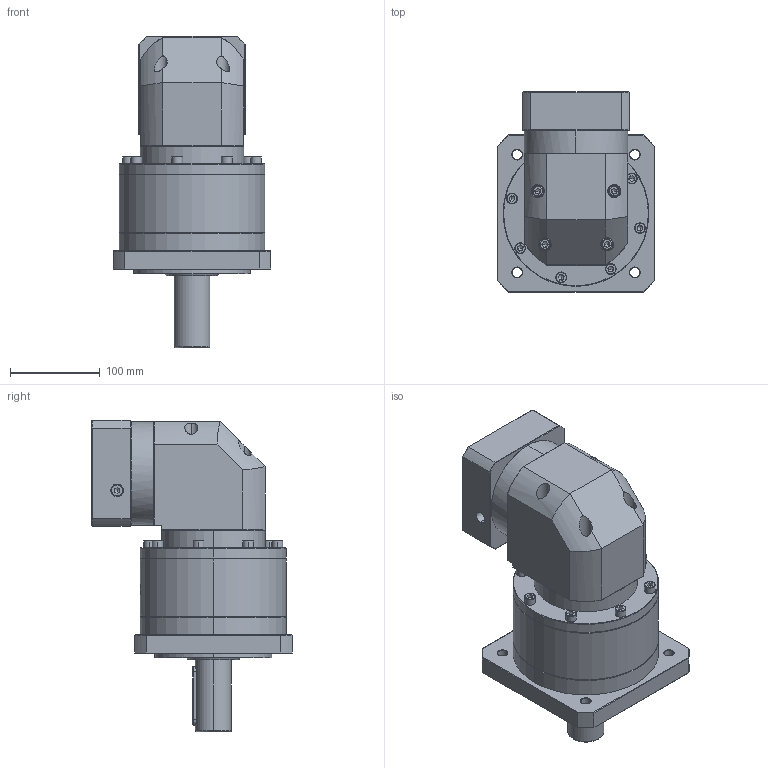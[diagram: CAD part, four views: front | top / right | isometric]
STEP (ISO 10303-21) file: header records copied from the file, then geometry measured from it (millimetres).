
FILE_DESCRIPTION (( 'STEP AP214' ), '1' );
FILE_NAME ('ZFR160A-D40-L2-P2-24-110-130-M8.step', '2023-09-03T09:40:34', ( '' ), ( '' ), 'SwSTEP 2.0', 'SolidWorks 2016', '' );
FILE_SCHEMA (( 'AUTOMOTIVE_DESIGN' ));
Length unit declared in the file: millimetre
Products named in the file (1): ZFR160A-D40-L2-P2-24-110-130-M8
Bounding box: 175 x 222.4 x 346.2 mm (x, y, z)
Volume: 5000438.7 mm3; surface area: 344030.6 mm2
Topology: 6 solids, 6 shells, 2472 faces, 6490 edges, 4145 vertices
Faces by surface type: plane 1146, cylinder 499, bspline 410, cone 371, torus 46
Entity records: 133158 total; most frequent: CARTESIAN_POINT 50343, ORIENTED_EDGE 12872, DIRECTION 9803, EDGE_CURVE 6436, VERTEX_POINT 4145, LINE 3443, VECTOR 3443, AXIS2_PLACEMENT_3D 3180
